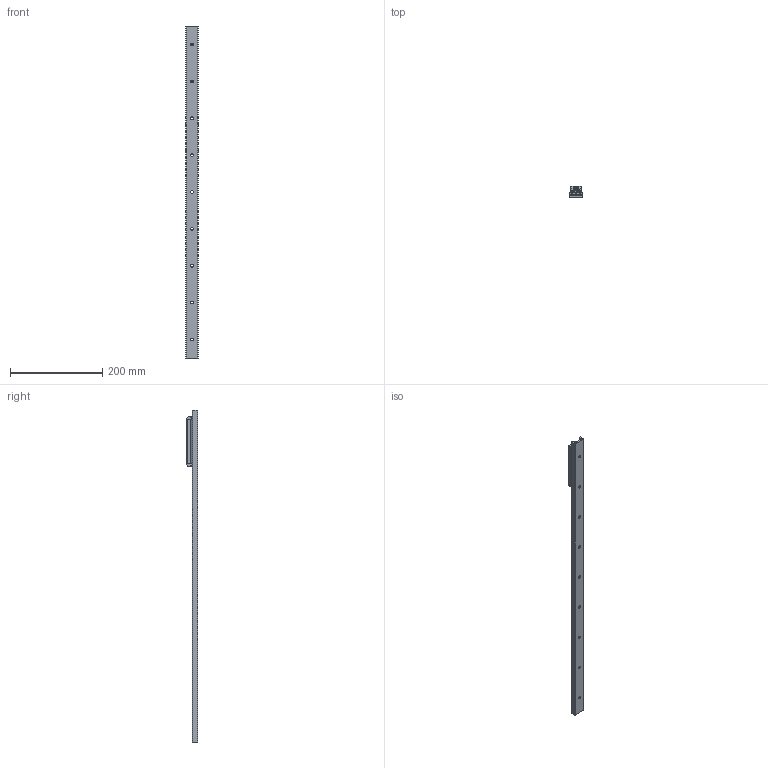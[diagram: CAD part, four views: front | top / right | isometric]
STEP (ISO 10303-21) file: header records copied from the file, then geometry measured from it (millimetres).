
FILE_DESCRIPTION( ( 'STEP AP214' ), '1' );
FILE_NAME( 'p:/temp/worker_16/temp/exporttempdir_1824_87_gaSe0/format_1/TGV-00720_1_RV28G-3.stp', '2020-11-20T15:16:38', ( 'License CC BY-ND 4.0' ), ( 'CADENAS' ), ' ', 'PARTsolutions', ' ' );
FILE_SCHEMA( ( 'AUTOMOTIVE_DESIGN { 1 0 10303 214 1 1 1 1 }' ) );
Length unit declared in the file: millimetre
Products named in the file (6): TGV-00720/1/RV28G-3; _TGV28-0720-(3-1); _RV28G-3-slider; _RGNV28R; _RGAV28R; _WR28G-01
Assembly tree (7 placements, depth 2):
  TGV-00720/1/RV28G-3
    _TGV28-0720-(3-1)
    _RV28G-3-slider
    _RGNV28R  x2
    _RGAV28R
    _WR28G-01  x2
Bounding box: 28 x 24 x 720 mm (x, y, z)
Volume: 140450 mm3; surface area: 88110.5 mm2
Topology: 7 solids, 7 shells, 1030 faces, 2690 edges, 1756 vertices
Faces by surface type: plane 657, cylinder 289, cone 49, bspline 26, torus 9
Full cylindrical faces by diameter (mm): 1.27 x4, 2 x2, 2.5 x6, 4 x4, 4.134 x4, 4.2 x3, 5 x3, 5.5 x3, 5.75 x9, 7 x5, 7.5 x1, 8 x6, 10.8 x3, 17 x3, 20.75 x6
Entity records: 24681 total; most frequent: CARTESIAN_POINT 3947, DIRECTION 3290, ORIENTED_EDGE 3048, EDGE_CURVE 1524, AXIS2_PLACEMENT_3D 1250, VERTEX_POINT 1056, EDGE_LOOP 845, LINE 790
